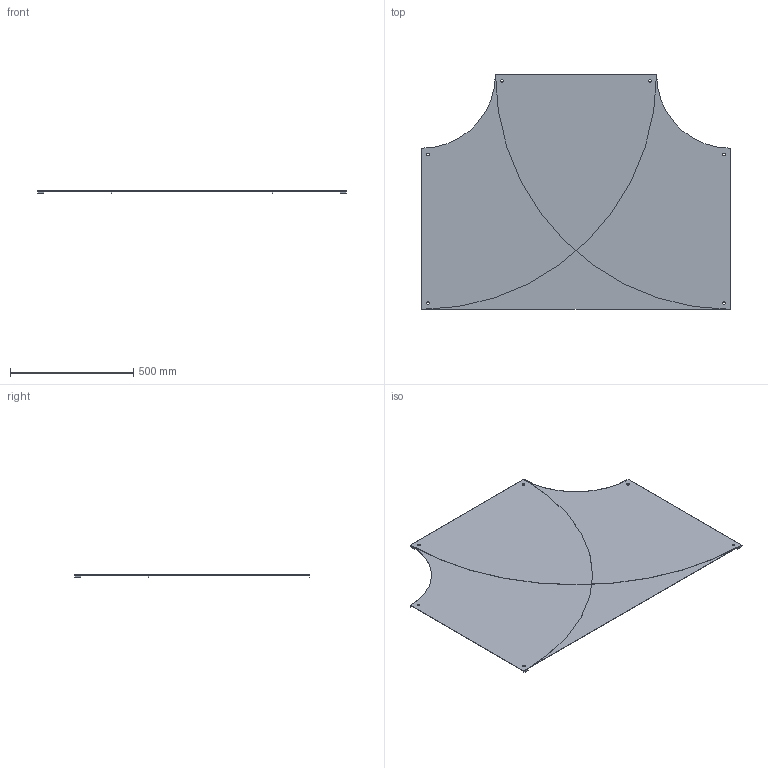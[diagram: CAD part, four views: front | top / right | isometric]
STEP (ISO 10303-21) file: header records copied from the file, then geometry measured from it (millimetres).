
FILE_DESCRIPTION(/* description */ ('','CAx-IF Rec.Pracs.---Representation and Presentation of Product Manufacturing Information (PMI)---4.0---2014-10-13'),/* implementation_level */ '2;1');
FILE_NAME(/* name */ 'Eurostrut_EETC600-300_Cover T-Piece for Cable Ladder ECL.step',/* time_stamp */ '2026-09-10T09:51:22+02:00',/* author */ (''),/* organization */ (''),/* preprocessor_version */ 'ST-DEVELOPER v20.1',/* originating_system */ 'Autodesk Revit 2027 27.2.0.39',/* authorisation */ '');
FILE_SCHEMA (('AP242_MANAGED_MODEL_BASED_3D_ENGINEERING_MIM_LF { 1 0 10303 442 2 1 4 }'));
Length unit declared in the file: millimetre
Products named in the file (7): TopLevelAssembly; Extrusion; Joined Solid Geometry; Joined Solid Geometry_1; Joined Solid Geometry_2; Joined Solid Geometry_3; Joined Solid Geometry_4
Assembly tree (6 placements, depth 2):
  TopLevelAssembly
    Extrusion
    Joined Solid Geometry
    Joined Solid Geometry_1
    Joined Solid Geometry_2
    Joined Solid Geometry_3
    Joined Solid Geometry_4
Bounding box: 1250 x 951.5 x 9 mm (x, y, z)
Volume: 3497403.5 mm3; surface area: 4680478.5 mm2
Topology: 9 solids, 9 shells, 84 faces, 198 edges, 132 vertices
Faces by surface type: plane 42, cylinder 42
Entity records: 2630 total; most frequent: DIRECTION 476, CARTESIAN_POINT 427, ORIENTED_EDGE 396, EDGE_CURVE 198, AXIS2_PLACEMENT_3D 181, VERTEX_POINT 132, LINE 114, VECTOR 114
